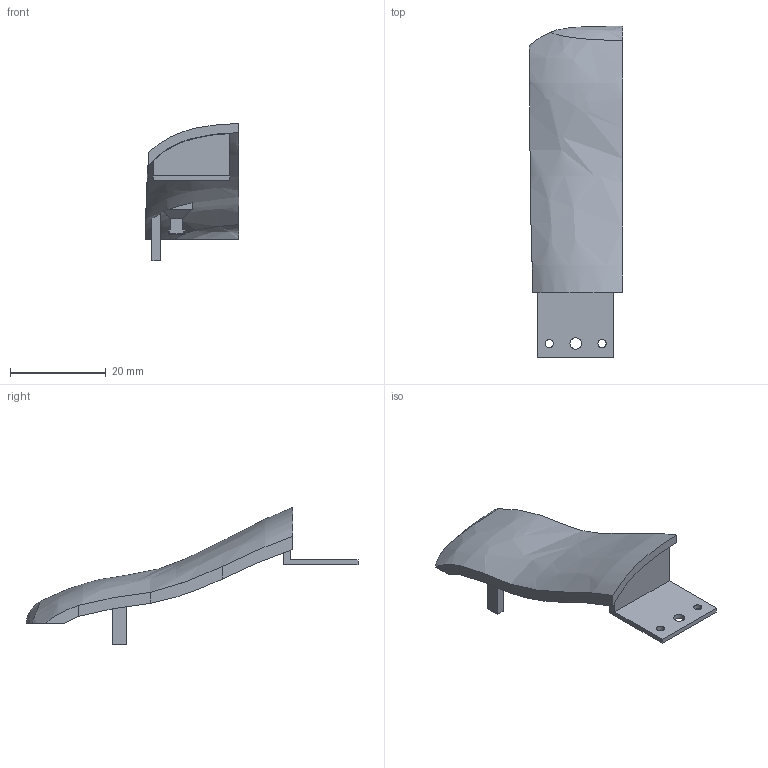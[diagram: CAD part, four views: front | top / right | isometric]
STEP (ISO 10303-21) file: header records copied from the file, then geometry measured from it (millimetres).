
FILE_DESCRIPTION(('Open CASCADE Model'),'2;1');
FILE_NAME('Open CASCADE Shape Model','2026-11-26T00:18:36',('Author'),( 'Open CASCADE'),'Open CASCADE STEP processor 7.9','build123d', 'Unknown');
FILE_SCHEMA(('AUTOMOTIVE_DESIGN { 1 0 10303 214 1 1 1 1 }'));
Products named in the file (1): SOLID
Bounding box: 19.61 x 69.37 x 28.63 mm (x, y, z)
Volume: 2674.7 mm3; surface area: 3582.1 mm2
Topology: 1 solids, 1 shells, 55 faces, 139 edges, 88 vertices
Faces by surface type: plane 32, cylinder 11, bspline 8, revolution 4
Full cylindrical faces by diameter (mm): 1.7 x2, 2.4 x1
Entity records: 91507 total; most frequent: CARTESIAN_POINT 88957, DIRECTION 383, ORIENTED_EDGE 276, PCURVE 276, DEFINITIONAL_REPRESENTATION 276, LINE 229, VECTOR 229, B_SPLINE_CURVE_WITH_KNOTS 149
